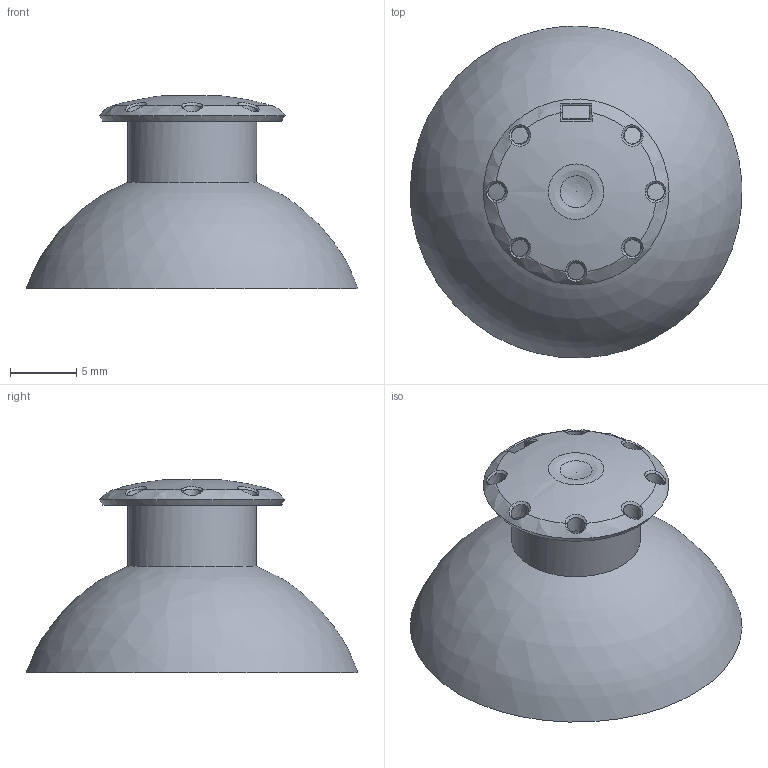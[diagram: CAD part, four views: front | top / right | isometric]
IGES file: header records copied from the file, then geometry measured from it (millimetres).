
Global section: file name: Main_Body; native system: unknown; preprocessor: unknown; author: unknown; organization: unknown; date: 20240903.233434; units: millimetre
Bounding box: 24.98 x 24.99 x 14.53 mm (x, y, z)
Volume: 1265.2 mm3; surface area: 2087.5 mm2
Topology: 1 solids, 1 shells, 90 faces, 259 edges, 166 vertices
Faces by surface type: bspline 90
